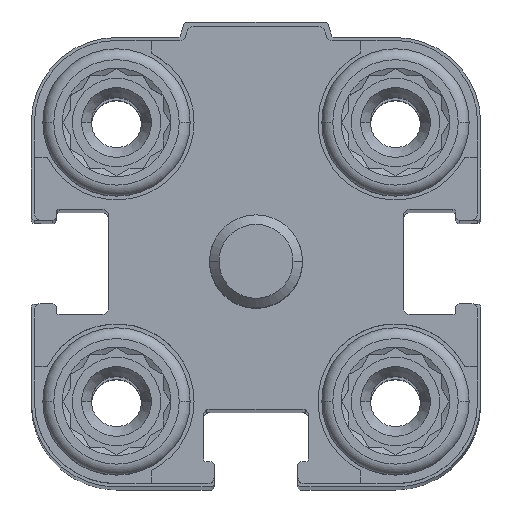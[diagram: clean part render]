
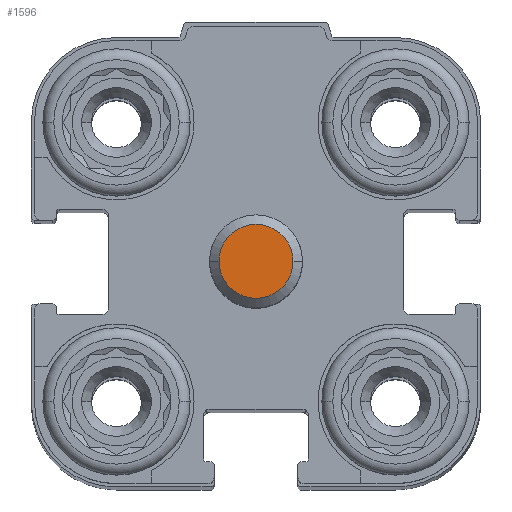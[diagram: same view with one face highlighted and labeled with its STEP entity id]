
A CAD part, top view. The second image highlights one B-rep face of the part: STEP entity #1596.
In plain terms, the highlighted planar face has unit normal (0, 0, 1).
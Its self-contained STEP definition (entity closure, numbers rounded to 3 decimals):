
#1596 = ADVANCED_FACE ( 'NONE', ( #2607 ), #2511, .F. ) ;
#1892 = DIRECTION ( 'NONE',  ( -1., 0., 0. ) ) ;
#2255 = CIRCLE ( 'NONE', #5128, 2.387 ) ;
#2511 = PLANE ( 'NONE',  #14167 ) ;
#2566 = CIRCLE ( 'NONE', #6315, 2.387 ) ;
#2607 = FACE_OUTER_BOUND ( 'NONE', #15290, .T. ) ;
#2945 = ORIENTED_EDGE ( 'NONE', *, *, #13726, .F. ) ;
#3258 = CARTESIAN_POINT ( 'NONE',  ( 0., 0., 20.5 ) ) ;
#4456 = DIRECTION ( 'NONE',  ( -1., 0., 0. ) ) ;
#5128 = AXIS2_PLACEMENT_3D ( 'NONE', #3258, #8746, #1892 ) ;
#6315 = AXIS2_PLACEMENT_3D ( 'NONE', #11293, #14232, #4456 ) ;
#6754 = DIRECTION ( 'NONE',  ( 0., 0., -1. ) ) ;
#6975 = ORIENTED_EDGE ( 'NONE', *, *, #12908, .F. ) ;
#8096 = CARTESIAN_POINT ( 'NONE',  ( 0., 0., 20.5 ) ) ;
#8549 = VERTEX_POINT ( 'NONE', #11087 ) ;
#8746 = DIRECTION ( 'NONE',  ( 0., 0., -1. ) ) ;
#9124 = VERTEX_POINT ( 'NONE', #17325 ) ;
#11087 = CARTESIAN_POINT ( 'NONE',  ( 2.387, 0., 20.5 ) ) ;
#11293 = CARTESIAN_POINT ( 'NONE',  ( 0., 0., 20.5 ) ) ;
#12908 = EDGE_CURVE ( 'NONE', #9124, #8549, #2255, .T. ) ;
#13726 = EDGE_CURVE ( 'NONE', #8549, #9124, #2566, .T. ) ;
#13739 = DIRECTION ( 'NONE',  ( 0., 1., 0. ) ) ;
#14167 = AXIS2_PLACEMENT_3D ( 'NONE', #8096, #6754, #13739 ) ;
#14232 = DIRECTION ( 'NONE',  ( 0., 0., -1. ) ) ;
#15290 = EDGE_LOOP ( 'NONE', ( #6975, #2945 ) ) ;
#17325 = CARTESIAN_POINT ( 'NONE',  ( -2.387, 0., 20.5 ) ) ;
